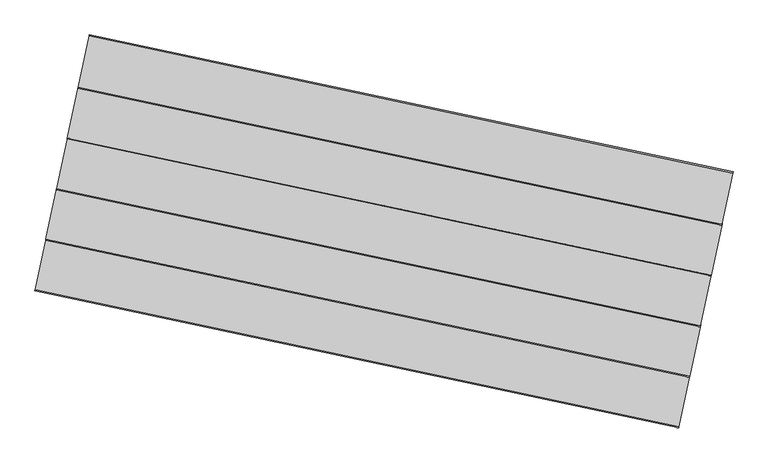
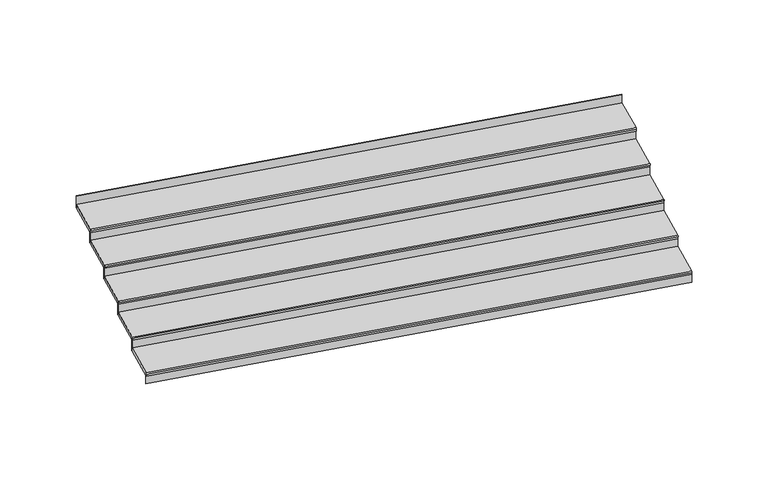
"""IFC4 building model written with IfcOpenShell, lengths in millimetres: stair flight geometry, Wood Steps with 50 mm Tread 20 mm Nosing 13 mm Riser."""

from ifc_helpers import new_model, si_unit, point, frame, frame_2d, origin, place, context, project, spatial, polyline, circle_curve, trimmed, segment, composite_curve, outline, extrude, source, transform, mapped, element, save


def stair_flight_baf2cb10(model_context):
    return source(origin(), model_context, "Body", "SweptSolid", [
        extrude(outline(composite_curve([segment(polyline([(0.0, -598.410772), (0.0, 0.0)]), True, "CONTINUOUS"), segment(trimmed(circle_curve(frame_2d((10.0, 0.0)), 10.0), [point((0.0, 0.0))], [point((20.0, 0.0))], False, "CARTESIAN"), True, "CONTINUOUS"), segment(polyline([(20.0, 0.0), (50.0, 0.0), (50.0, -598.410772), (0.0, -598.410772)]), True, "CONTINUOUS")], self_intersect=False)), frame((896803.1242861, 36632.5752307, 5179.2941176), z_axis=(-0.9780872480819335, 0.20819542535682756, 0.0), x_axis=(0.0, 0.0, -1.0)), (0.0, 0.0, 1.0), 7484.423404),
        extrude(outline(polyline([(896807.8086832, 36654.5821938), (896805.2062404, 36642.3561032), (889484.7871496, 38200.5788173), (889487.3895924, 38212.8049079), (896807.8086832, 36654.5821938)])), frame((0.0, 0.0, 5000.0), z_axis=(0.0, 0.0, 1.0), x_axis=(1.0, 0.0, 0.0)), (0.0, 0.0, 1.0), 129.2941176),
        extrude(outline(polyline([(896930.3131141, 37230.0992665), (896927.7106713, 37217.8731759), (889607.2915806, 38776.09589), (889609.8940234, 38788.3219806), (896930.3131141, 37230.0992665)])), frame((0.0, 0.0, 5129.2941176), z_axis=(0.0, 0.0, 1.0), x_axis=(1.0, 0.0, 0.0)), (0.0, 0.0, 1.0), 179.2941176),
        extrude(outline(composite_curve([segment(polyline([(0.0, -598.410772), (0.0, 0.0)]), True, "CONTINUOUS"), segment(trimmed(circle_curve(frame_2d((10.0, 0.0)), 10.0), [point((0.0, 0.0))], [point((20.0, 0.0))], False, "CARTESIAN"), True, "CONTINUOUS"), segment(polyline([(20.0, 0.0), (50.0, 0.0), (50.0, -598.410772), (0.0, -598.410772)]), True, "CONTINUOUS")], self_intersect=False)), frame((896925.6287171, 37208.0923034, 5358.5882353), z_axis=(-0.9780872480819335, 0.20819542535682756, 0.0), x_axis=(0.0, 0.0, -1.0)), (0.0, 0.0, 1.0), 7484.423404),
        extrude(outline(polyline([(897052.8175451, 37805.6163392), (897050.2151023, 37793.3902486), (889729.7960115, 39351.6129628), (889732.3984544, 39363.8390534), (897052.8175451, 37805.6163392)])), frame((0.0, 0.0, 5308.5882353), z_axis=(0.0, 0.0, 1.0), x_axis=(1.0, 0.0, 0.0)), (0.0, 0.0, 1.0), 179.2941176),
        extrude(outline(composite_curve([segment(polyline([(0.0, -598.410772), (0.0, 0.0)]), True, "CONTINUOUS"), segment(trimmed(circle_curve(frame_2d((10.0, 0.0)), 10.0), [point((0.0, 0.0))], [point((20.0, 0.0))], False, "CARTESIAN"), True, "CONTINUOUS"), segment(polyline([(20.0, 0.0), (50.0, 0.0), (50.0, -598.410772), (0.0, -598.410772)]), True, "CONTINUOUS")], self_intersect=False)), frame((897048.133148, 37783.6093761, 5537.8823529), z_axis=(-0.9780872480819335, 0.20819542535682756, 0.0), x_axis=(0.0, 0.0, -1.0)), (0.0, 0.0, 1.0), 7484.423404),
        extrude(outline(polyline([(897175.321976, 38381.1334119), (897172.7195332, 38368.9073213), (889852.3004425, 39927.1300355), (889854.9028853, 39939.3561261), (897175.321976, 38381.1334119)])), frame((0.0, 0.0, 5487.8823529), z_axis=(0.0, 0.0, 1.0), x_axis=(1.0, 0.0, 0.0)), (0.0, 0.0, 1.0), 179.2941176),
        extrude(outline(composite_curve([segment(polyline([(0.0, -598.410772), (0.0, 0.0)]), True, "CONTINUOUS"), segment(trimmed(circle_curve(frame_2d((10.0, 0.0)), 10.0), [point((0.0, 0.0))], [point((20.0, 0.0))], False, "CARTESIAN"), True, "CONTINUOUS"), segment(polyline([(20.0, 0.0), (50.0, 0.0), (50.0, -598.410772), (0.0, -598.410772)]), True, "CONTINUOUS")], self_intersect=False)), frame((897170.637579, 38359.1264488, 5717.1764706), z_axis=(-0.9780872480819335, 0.20819542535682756, 0.0), x_axis=(0.0, 0.0, -1.0)), (0.0, 0.0, 1.0), 7484.423404),
        extrude(outline(polyline([(897297.826407, 38956.6504846), (897295.2239642, 38944.424394), (889974.8048735, 40502.6471082), (889977.4073163, 40514.8731988), (897297.826407, 38956.6504846)])), frame((0.0, 0.0, 5667.1764706), z_axis=(0.0, 0.0, 1.0), x_axis=(1.0, 0.0, 0.0)), (0.0, 0.0, 1.0), 179.2941176),
        extrude(outline(polyline([(897420.330838, 39532.1675573), (897417.7283951, 39519.9414667), (890097.3093044, 41078.1641809), (890099.9117472, 41090.3902715), (897420.330838, 39532.1675573)])), frame((0.0, 0.0, 5846.4705882), z_axis=(0.0, 0.0, 1.0), x_axis=(1.0, 0.0, 0.0)), (0.0, 0.0, 1.0), 179.2941176),
        extrude(outline(composite_curve([segment(polyline([(0.0, -598.4107719), (0.0, 0.0)]), True, "CONTINUOUS"), segment(trimmed(circle_curve(frame_2d((10.0, 0.0)), 10.0), [point((0.0, 0.0))], [point((20.0, 0.0))], False, "CARTESIAN"), True, "CONTINUOUS"), segment(polyline([(20.0, 0.0), (50.0, 0.0), (50.0, -598.4107719), (0.0, -598.4107719)]), True, "CONTINUOUS")], self_intersect=False)), frame((897293.1420099, 38934.6435216, 5896.4705882), z_axis=(-0.9780872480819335, 0.20819542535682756, 0.0), x_axis=(0.0, 0.0, -1.0)), (0.0, 0.0, 1.0), 7484.423404),
    ])


if __name__ == "__main__":
    model = new_model("IFC4")
    model_context = context("Model", 3, world=origin())
    ifc_project = project(units=[si_unit("LENGTHUNIT", "METRE", prefix="MILLI")], contexts=[model_context])
    site = spatial("IfcSite", under=ifc_project)
    building = spatial("IfcBuilding", under=site)
    placement = place(None, origin())
    stair_flight_shape = stair_flight_baf2cb10(model_context)
    element("IfcStairFlight", 1, ObjectType="Wood Steps with 50 mm Tread 20 mm Nosing 13 mm Riser", at=placement, inside=building, context=model_context, shape_type="MappedRepresentation", body=[
        mapped(stair_flight_shape, transform((0.0, 0.0, 0.0), x_axis=(1.0, 0.0, 0.0), y_axis=(0.0, 1.0, 0.0), z_axis=(0.0, 0.0, 1.0))),
    ])
    save(model, "model.ifc")
